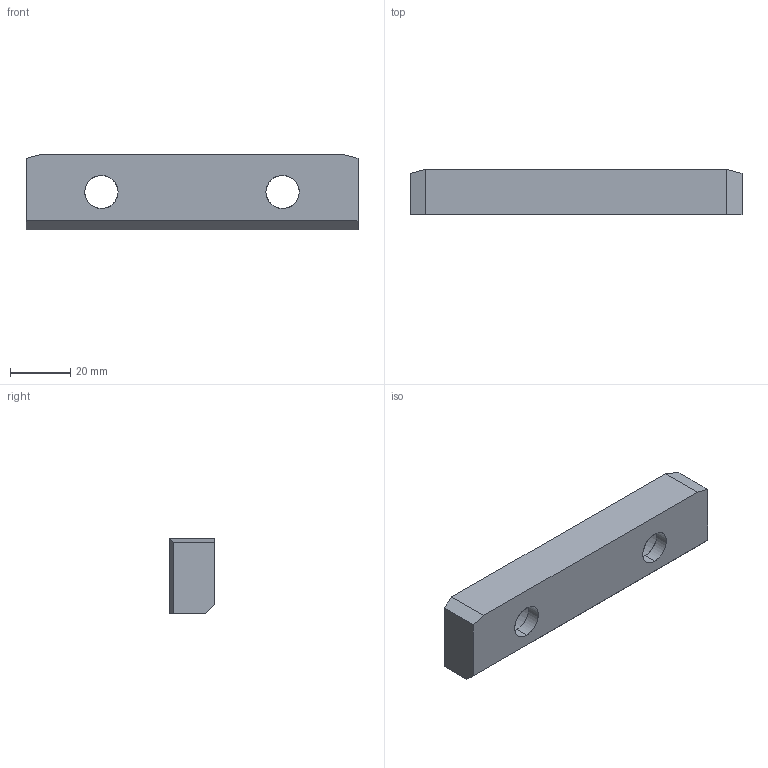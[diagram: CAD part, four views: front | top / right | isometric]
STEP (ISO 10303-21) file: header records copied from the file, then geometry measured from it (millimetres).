
FILE_DESCRIPTION(('CATIA V5 STEP Exchange'),'2;1');
FILE_NAME('C:\Users\Utente\Desktop\3D files A609\A609-015-110.stp','2020-04-13T19:48:02+00:00',('none'),('none'),'CATIA Version 5 Release 20 GA (IN-10)','CATIA V5 STEP AP203','none');
FILE_SCHEMA(('CONFIG_CONTROL_DESIGN'));
Length unit declared in the file: millimetre
Products named in the file (1): Noname
Bounding box: 110 x 15 x 25 mm (x, y, z)
Surface area: 10349.4 mm2 (no closed solid volume)
Topology: 0 solids, 17 shells, 21 faces, 90 edges, 82 vertices
Faces by surface type: extrusion 13, cylinder 8
Entity records: 1193 total; most frequent: CARTESIAN_POINT 465, ORIENTED_EDGE 98, DIRECTION 93, EDGE_CURVE 90, VERTEX_POINT 82, VECTOR 61, LINE 48, B_SPLINE_CURVE_WITH_KNOTS 39
